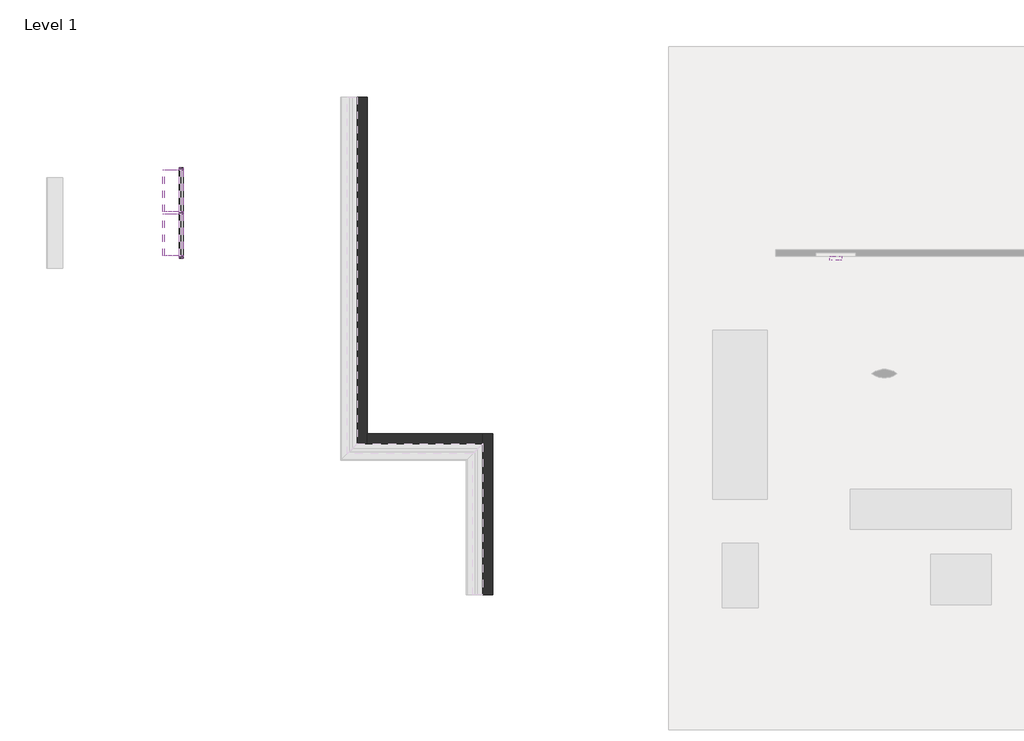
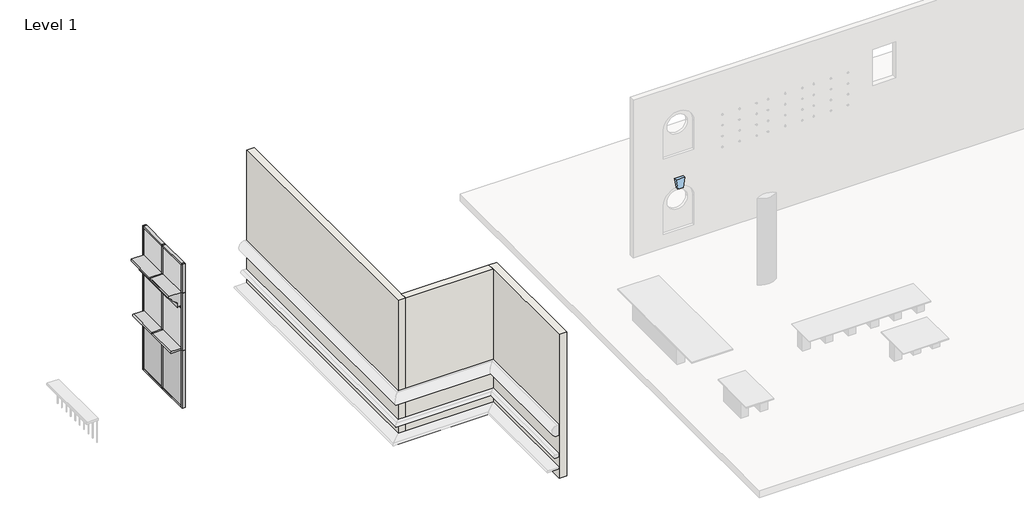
# One storey, part 1 of 3: 17 members, 3 walls, 2 plates, 1 window.
"""IFC4 building model written with IfcOpenShell, lengths in millimetres."""

from ifc_helpers import new_model, si_unit, origin, place, context, project, spatial, faceted_brep, transform, mapped, element, save
from components import member_cba00588, member_f0fea5a5, member_2b49869a, member_ee409385, member_75074519, member_0ea97aff, member_522a8f91, system_panel_glazed_de5b064a, window_f5e32f70

model = new_model("IFC4")

# Units and contexts
model_context = context("Model", 3, world=origin())
ifc_project = project(units=[si_unit("LENGTHUNIT", "METRE", prefix="MILLI")], contexts=[model_context])

# Site, building, storey
site = spatial("IfcSite", under=ifc_project)
building = spatial("IfcBuilding", under=site)
storey = spatial("IfcBuildingStorey", under=building, Name="Level 1", Elevation=0.0)

# Members
placement = place(None, origin())
member_shape = member_cba00588(model_context)
element("IfcMember", 1, ObjectType="Rectangular Mullion : 2.5\" x 5\" rectangular", at=placement, inside=storey, context=model_context, shape_type="MappedRepresentation", body=[
    mapped(member_shape, transform((-28677.1471749, 6428.1494331, 6096.0), x_axis=(0.0, 0.0, 1.0), y_axis=(-1.0, 0.0, 0.0), z_axis=(0.0, -1.0, 0.0))),
])
element("IfcMember", 2, ObjectType="Rectangular Mullion : 2.5\" x 5\" rectangular", at=placement, inside=storey, context=model_context, shape_type="MappedRepresentation", body=[
    mapped(member_shape, transform((-28677.1471749, 7767.9994331, 6096.0), x_axis=(0.0, 0.0, 1.0), y_axis=(-1.0, 0.0, 0.0), z_axis=(0.0, -1.0, 0.0))),
])
element("IfcMember", 3, ObjectType="Rectangular Mullion : 2.5\" x 5\" rectangular", at=placement, inside=storey, context=model_context, shape_type="MappedRepresentation", body=[
    mapped(member_shape, transform((-28677.1471749, 9044.3494331, 0.0), x_axis=(0.0, 0.0, -1.0), y_axis=(-1.0, 0.0, 0.0), z_axis=(0.0, 1.0, 0.0))),
])
element("IfcMember", 4, ObjectType="Rectangular Mullion : 2.5\" x 5\" rectangular", at=placement, inside=storey, context=model_context, shape_type="MappedRepresentation", body=[
    mapped(member_shape, transform((-28677.1471749, 7704.4994331, 0.0), x_axis=(0.0, 0.0, -1.0), y_axis=(-1.0, 0.0, 0.0), z_axis=(0.0, 1.0, 0.0))),
])
member_2_shape = member_f0fea5a5(model_context)
element("IfcMember", 5, ObjectType="Rectangular Mullion : 2.5\" x 5\" rectangular", at=placement, inside=storey, context=model_context, shape_type="MappedRepresentation", body=[
    mapped(member_2_shape, transform((-28677.1471749, 7736.2494331, 0.0), x_axis=(0.0, -1.0, 0.0), y_axis=(-1.0, 0.0, 0.0), z_axis=(0.0, 0.0, -1.0))),
])
element("IfcMember", 6, ObjectType="Rectangular Mullion : 2.5\" x 5\" rectangular", at=placement, inside=storey, context=model_context, shape_type="MappedRepresentation", body=[
    mapped(member_2_shape, transform((-28677.1471749, 7736.2494331, 2438.4), x_axis=(0.0, -1.0, 0.0), y_axis=(-1.0, 0.0, 0.0), z_axis=(0.0, 0.0, -1.0))),
])
member_3_shape = member_2b49869a(model_context)
element("IfcMember", 7, ObjectType="Rectangular Mullion : 2.5\" x 5\" rectangular", at=placement, inside=storey, context=model_context, shape_type="MappedRepresentation", body=[
    mapped(member_3_shape, transform((-28677.1471749, 7736.2494331, 4876.8), x_axis=(0.0, -1.0, 0.0), y_axis=(-1.0, 0.0, 0.0), z_axis=(0.0, 0.0, -1.0))),
])
member_4_shape = member_ee409385(model_context)
element("IfcMember", 8, ObjectType="Rectangular Mullion : 2.5\" x 5\" rectangular", at=placement, inside=storey, context=model_context, shape_type="MappedRepresentation", body=[
    mapped(member_4_shape, transform((-28677.1471749, 6364.6494331, 0.0), x_axis=(0.0, -1.0, 0.0), y_axis=(-1.0, 0.0, 0.0), z_axis=(0.0, 0.0, -1.0))),
])
member_5_shape = member_75074519(model_context)
element("IfcMember", 9, ObjectType="Rectangular Mullion : 2.5\" x 5\" rectangular", at=placement, inside=storey, context=model_context, shape_type="MappedRepresentation", body=[
    mapped(member_5_shape, transform((-28677.1471749, 9107.8494331, 6096.0), x_axis=(0.0, 1.0, 0.0), y_axis=(-1.0, 0.0, 0.0), z_axis=(0.0, 0.0, 1.0))),
])
element("IfcMember", 10, ObjectType="Rectangular Mullion : 2.5\" x 5\" rectangular", at=placement, inside=storey, context=model_context, shape_type="MappedRepresentation", body=[
    mapped(member_4_shape, transform((-28677.1471749, 6364.6494331, 2438.4), x_axis=(0.0, -1.0, 0.0), y_axis=(-1.0, 0.0, 0.0), z_axis=(0.0, 0.0, -1.0))),
])
element("IfcMember", 11, ObjectType="Rectangular Mullion : 2.5\" x 5\" rectangular", at=placement, inside=storey, context=model_context, shape_type="MappedRepresentation", body=[
    mapped(member_5_shape, transform((-28677.1471749, 6364.6494331, 4876.8), x_axis=(0.0, -1.0, 0.0), y_axis=(-1.0, 0.0, 0.0), z_axis=(0.0, 0.0, -1.0))),
])
element("IfcMember", 12, ObjectType="Rectangular Mullion : 2.5\" x 5\" rectangular", at=placement, inside=storey, context=model_context, shape_type="MappedRepresentation", body=[
    mapped(member_4_shape, transform((-28677.1471749, 9107.8494331, 2438.4), x_axis=(0.0, 1.0, 0.0), y_axis=(-1.0, 0.0, 0.0), z_axis=(0.0, 0.0, 1.0))),
])
element("IfcMember", 13, ObjectType="Rectangular Mullion : 2.5\" x 5\" rectangular", at=placement, inside=storey, context=model_context, shape_type="MappedRepresentation", body=[
    mapped(member_4_shape, transform((-28677.1471749, 9107.8494331, 4876.8), x_axis=(0.0, 1.0, 0.0), y_axis=(-1.0, 0.0, 0.0), z_axis=(0.0, 0.0, 1.0))),
])
member_6_shape = member_0ea97aff(model_context)
element("IfcMember", 14, ObjectType="Rectangular Mullion : 2.5\" x 5\" rectangular TN mod 1", at=placement, inside=storey, context=model_context, shape_type="MappedRepresentation", body=[
    mapped(member_6_shape, transform((-28677.1471749, 7767.9994331, 4876.8), x_axis=(0.0, 0.0, 1.0), y_axis=(-1.0, 0.0, 0.0), z_axis=(0.0, -1.0, 0.0))),
])
element("IfcMember", 15, ObjectType="Rectangular Mullion : 2.5\" x 5\" rectangular TN mod 1", at=placement, inside=storey, context=model_context, shape_type="MappedRepresentation", body=[
    mapped(member_6_shape, transform((-28677.1471749, 6428.1494331, 4876.8), x_axis=(0.0, 0.0, 1.0), y_axis=(-1.0, 0.0, 0.0), z_axis=(0.0, -1.0, 0.0))),
])
member_7_shape = member_522a8f91(model_context)
element("IfcMember", 16, ObjectType="Rectangular Mullion : 2.5\" x 5\" rectangular TN mod 2", at=placement, inside=storey, context=model_context, shape_type="MappedRepresentation", body=[
    mapped(member_7_shape, transform((-28677.1471749, 7767.9994331, 2438.4), x_axis=(0.0, 0.0, 1.0), y_axis=(-1.0, 0.0, 0.0), z_axis=(0.0, -1.0, 0.0))),
])
element("IfcMember", 17, ObjectType="Rectangular Mullion : 2.5\" x 5\" rectangular TN mod 2", at=placement, inside=storey, context=model_context, shape_type="MappedRepresentation", body=[
    mapped(member_7_shape, transform((-28677.1471749, 6428.1494331, 2438.4), x_axis=(0.0, 0.0, 1.0), y_axis=(-1.0, 0.0, 0.0), z_axis=(0.0, -1.0, 0.0))),
])

# Plates
system_panel_glazed_shape = system_panel_glazed_de5b064a(model_context)
element("IfcPlate", 18, ObjectType="System Panel : Glazed", at=placement, inside=storey, context=model_context, shape_type="MappedRepresentation", body=[
    mapped(system_panel_glazed_shape, transform((-28677.1471749, 8406.1744331, 63.5), x_axis=(0.0, -1.0, 0.0), y_axis=(1.0, 0.0, 0.0), z_axis=(0.0, 0.0, 1.0))),
])
element("IfcPlate", 19, ObjectType="System Panel : Glazed", at=placement, inside=storey, context=model_context, shape_type="MappedRepresentation", body=[
    mapped(system_panel_glazed_shape, transform((-28677.1471749, 7066.3244331, 63.5), x_axis=(0.0, -1.0, 0.0), y_axis=(1.0, 0.0, 0.0), z_axis=(0.0, 0.0, 1.0))),
])

# Walls
element("IfcWall", 20, ObjectType="Generic Brick Wall 12\" Sweeps TN 1", at=placement, inside=storey, context=model_context, shape_type="Brep", body=[
    faceted_brep([(-19228.3471749, -3846.1505669, 0.0), (-19228.3471749, 1030.6494331, 0.0), (-19228.3471749, 1030.6494331, 6096.0), (-19228.3471749, -3846.1505669, 6096.0), (-19533.1471749, -3846.1505669, 0.0), (-19533.1471749, -3846.1505669, 406.4), (-19533.1471749, -3846.1505669, 482.6), (-19533.1471749, -3846.1505669, 914.4), (-19533.1471749, -3846.1505669, 1066.8), (-19533.1471749, -3846.1505669, 1828.8), (-19533.1471749, -3846.1505669, 2286.0), (-19533.1471749, -3846.1505669, 3657.6), (-19533.1471749, -3846.1505669, 3810.0), (-19533.1471749, -3846.1505669, 5384.8), (-19533.1471749, -3846.1505669, 6096.0), (-19533.1471749, 725.8494331, 6096.0), (-19533.1471749, 1030.6494331, 6096.0), (-19533.1471749, 1030.6494331, 0.0), (-19533.1471749, 725.8494331, 0.0)], [[[0, 1, 2, 3]], [[4, 5, 6, 7, 8, 9, 10, 11, 12, 13, 14, 15, 16, 17, 18]], [[1, 0, 4, 18, 17]], [[3, 2, 16, 15, 14]], [[0, 3, 14, 13, 12, 11, 10, 9, 8, 7, 6, 5, 4]], [[2, 1, 17, 16]]]),
])
element("IfcWall", 21, ObjectType="Generic Brick Wall 12\" Sweeps TN 1", at=placement, inside=storey, context=model_context, shape_type="Brep", body=[
    faceted_brep([(-19533.1471749, 1030.6494331, 0.0), (-23038.3471749, 1030.6494331, 0.0), (-23038.3471749, 1030.6494331, 6096.0), (-19533.1471749, 1030.6494331, 6096.0), (-23038.3471749, 725.8494331, 0.0), (-19533.1471749, 725.8494331, 0.0), (-19533.1471749, 725.8494331, 406.4), (-19533.1471749, 725.8494331, 482.6), (-19533.1471749, 725.8494331, 914.4), (-19533.1471749, 725.8494331, 1066.8), (-19533.1471749, 725.8494331, 1828.8), (-19533.1471749, 725.8494331, 2286.0), (-19533.1471749, 725.8494331, 3657.6), (-19533.1471749, 725.8494331, 3810.0), (-19533.1471749, 725.8494331, 5384.8), (-19533.1471749, 725.8494331, 6096.0), (-23038.3471749, 725.8494331, 6096.0), (-23038.3471749, 725.8494331, 5384.8), (-23038.3471749, 725.8494331, 3810.0), (-23038.3471749, 725.8494331, 3657.6), (-23038.3471749, 725.8494331, 2286.0), (-23038.3471749, 725.8494331, 1828.8), (-23038.3471749, 725.8494331, 1066.8), (-23038.3471749, 725.8494331, 914.4), (-23038.3471749, 725.8494331, 482.6), (-23038.3471749, 725.8494331, 406.4)], [[[0, 1, 2, 3]], [[4, 5, 6, 7, 8, 9, 10, 11, 12, 13, 14, 15, 16, 17, 18, 19, 20, 21, 22, 23, 24, 25]], [[1, 0, 5, 4]], [[3, 2, 16, 15]], [[0, 3, 15, 14, 13, 12, 11, 10, 9, 8, 7, 6, 5]], [[2, 1, 4, 25, 24, 23, 22, 21, 20, 19, 18, 17, 16]]]),
])
element("IfcWall", 22, ObjectType="Generic Brick Wall 12\" Sweeps TN 1", at=placement, inside=storey, context=model_context, shape_type="Brep", body=[
    faceted_brep([(-23038.3471749, 725.8494331, 0.0), (-23038.3471749, 1030.6494331, 0.0), (-23038.3471749, 11241.4494331, 0.0), (-23038.3471749, 11241.4494331, 6096.0), (-23038.3471749, 1030.6494331, 6096.0), (-23038.3471749, 725.8494331, 6096.0), (-23038.3471749, 725.8494331, 5384.8), (-23038.3471749, 725.8494331, 3810.0), (-23038.3471749, 725.8494331, 3657.6), (-23038.3471749, 725.8494331, 2286.0), (-23038.3471749, 725.8494331, 1828.8), (-23038.3471749, 725.8494331, 1066.8), (-23038.3471749, 725.8494331, 914.4), (-23038.3471749, 725.8494331, 482.6), (-23038.3471749, 725.8494331, 406.4), (-23343.1471749, 11241.4494331, 0.0), (-23343.1471749, 725.8494331, 0.0), (-23343.1471749, 725.8494331, 406.4), (-23343.1471749, 725.8494331, 482.6), (-23343.1471749, 725.8494331, 914.4), (-23343.1471749, 725.8494331, 1066.8), (-23343.1471749, 725.8494331, 1828.8), (-23343.1471749, 725.8494331, 2286.0), (-23343.1471749, 725.8494331, 3657.6), (-23343.1471749, 725.8494331, 3810.0), (-23343.1471749, 725.8494331, 5384.8), (-23343.1471749, 725.8494331, 6096.0), (-23343.1471749, 11241.4494331, 6096.0), (-23343.1471749, 11241.4494331, 5384.8), (-23343.1471749, 11241.4494331, 3810.0), (-23343.1471749, 11241.4494331, 3657.6), (-23343.1471749, 11241.4494331, 2286.0), (-23343.1471749, 11241.4494331, 1828.8), (-23343.1471749, 11241.4494331, 1066.8), (-23343.1471749, 11241.4494331, 914.4), (-23343.1471749, 11241.4494331, 482.6), (-23343.1471749, 11241.4494331, 406.4)], [[[0, 1, 2, 3, 4, 5, 6, 7, 8, 9, 10, 11, 12, 13, 14]], [[15, 16, 17, 18, 19, 20, 21, 22, 23, 24, 25, 26, 27, 28, 29, 30, 31, 32, 33, 34, 35, 36]], [[2, 1, 0, 16, 15]], [[3, 2, 15, 36, 35, 34, 33, 32, 31, 30, 29, 28, 27]], [[5, 4, 3, 27, 26]], [[5, 26, 25, 24, 23, 22, 21, 20, 19, 18, 17, 16, 0, 14, 13, 12, 11, 10, 9, 8, 7, 6]]]),
])

# Window
window_shape = window_f5e32f70(model_context)
element("IfcWindow", 23, ObjectType="tn_window_3_keystone : tn_window_3_keystone", at=placement, inside=storey, context=model_context, shape_type="MappedRepresentation", body=[
    mapped(window_shape, transform((-8823.0299068, 6518.5361552, -330.1445977), x_axis=(-1.0, 0.0, 0.0), y_axis=(0.0, -1.0, 0.0), z_axis=(0.0, 0.0, 1.0))),
])

save(model, "model.ifc")
